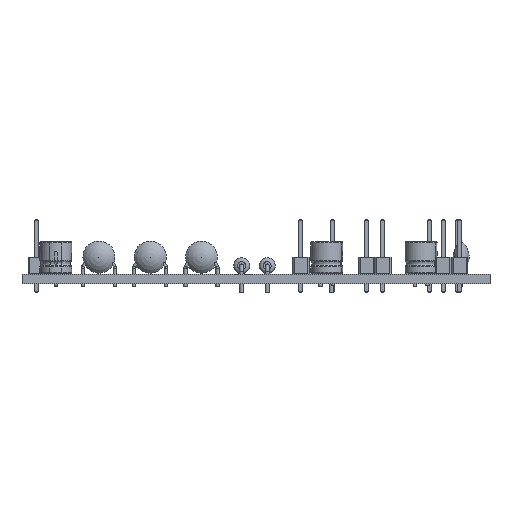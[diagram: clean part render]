
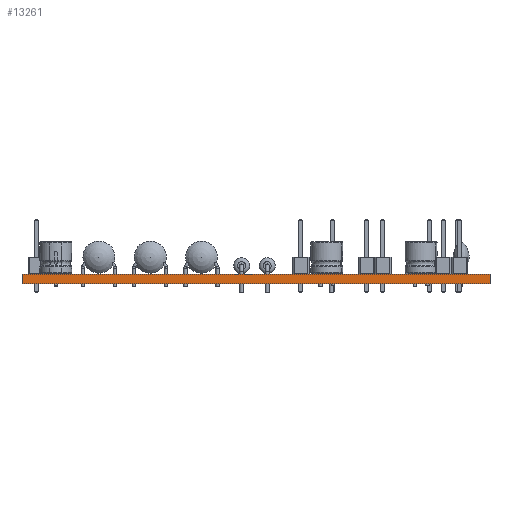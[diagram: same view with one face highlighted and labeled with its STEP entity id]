
A CAD part, front view. The second image highlights one B-rep face of the part: STEP entity #13261.
In plain terms, the highlighted planar face has unit normal (0, -1, 0).
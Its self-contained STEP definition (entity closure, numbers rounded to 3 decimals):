
#13261 = ADVANCED_FACE('',(#13262),#13296,.T.);
#13262 = FACE_BOUND('',#13263,.T.);
#13263 = EDGE_LOOP('',(#13264,#13274,#13282,#13290));
#13264 = ORIENTED_EDGE('',*,*,#13265,.T.);
#13265 = EDGE_CURVE('',#13266,#13268,#13270,.T.);
#13266 = VERTEX_POINT('',#13267);
#13267 = CARTESIAN_POINT('',(180.75,-116.5,0.));
#13268 = VERTEX_POINT('',#13269);
#13269 = CARTESIAN_POINT('',(180.75,-116.5,1.51));
#13270 = LINE('',#13271,#13272);
#13271 = CARTESIAN_POINT('',(180.75,-116.5,0.));
#13272 = VECTOR('',#13273,1.);
#13273 = DIRECTION('',(0.,0.,1.));
#13274 = ORIENTED_EDGE('',*,*,#13275,.T.);
#13275 = EDGE_CURVE('',#13268,#13276,#13278,.T.);
#13276 = VERTEX_POINT('',#13277);
#13277 = CARTESIAN_POINT('',(107.75,-116.5,1.51));
#13278 = LINE('',#13279,#13280);
#13279 = CARTESIAN_POINT('',(180.75,-116.5,1.51));
#13280 = VECTOR('',#13281,1.);
#13281 = DIRECTION('',(-1.,0.,0.));
#13282 = ORIENTED_EDGE('',*,*,#13283,.F.);
#13283 = EDGE_CURVE('',#13284,#13276,#13286,.T.);
#13284 = VERTEX_POINT('',#13285);
#13285 = CARTESIAN_POINT('',(107.75,-116.5,0.));
#13286 = LINE('',#13287,#13288);
#13287 = CARTESIAN_POINT('',(107.75,-116.5,0.));
#13288 = VECTOR('',#13289,1.);
#13289 = DIRECTION('',(0.,0.,1.));
#13290 = ORIENTED_EDGE('',*,*,#13291,.F.);
#13291 = EDGE_CURVE('',#13266,#13284,#13292,.T.);
#13292 = LINE('',#13293,#13294);
#13293 = CARTESIAN_POINT('',(180.75,-116.5,0.));
#13294 = VECTOR('',#13295,1.);
#13295 = DIRECTION('',(-1.,0.,0.));
#13296 = PLANE('',#13297);
#13297 = AXIS2_PLACEMENT_3D('',#13298,#13299,#13300);
#13298 = CARTESIAN_POINT('',(180.75,-116.5,0.));
#13299 = DIRECTION('',(0.,-1.,0.));
#13300 = DIRECTION('',(-1.,0.,0.));
